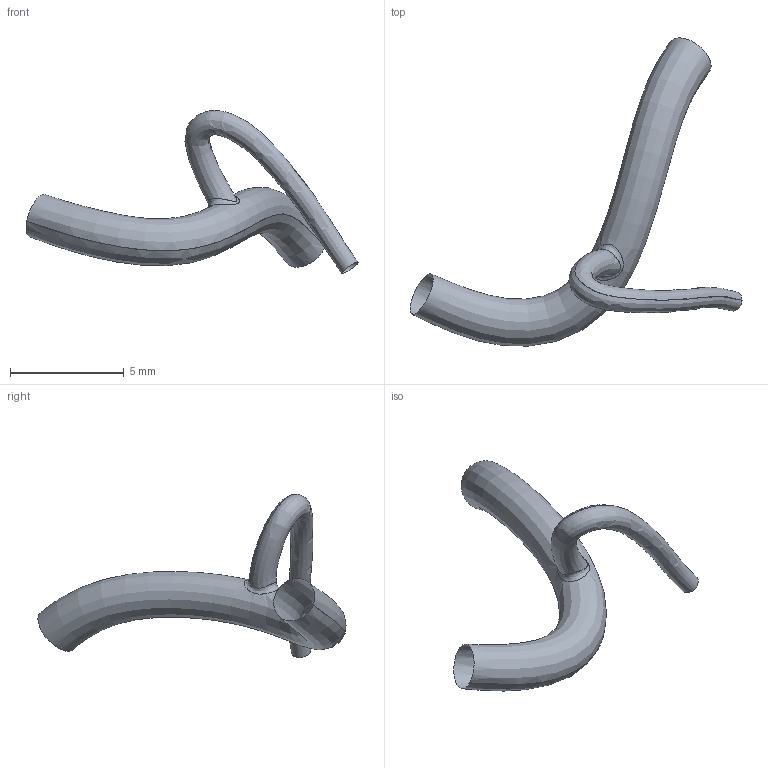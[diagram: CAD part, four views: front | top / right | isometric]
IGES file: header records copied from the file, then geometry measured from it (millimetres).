
Global section: file name: C:\Documents and Settings\Administrator\Desktop\FDA-Pig\Domestic RCA\Pig_000005\avc.es.igs; native system: Rhinoceros ( May 19 2006 ); preprocessor: Trout Lake IGES 012 May 19 2006; date: 111205.185148; units: centimetre
Bounding box: 14.58 x 13.53 x 7.16 mm (x, y, z)
Surface area: 171.1 mm2 (no closed solid volume)
Topology: 0 solids, 0 shells, 3 faces, 44 edges, 41 vertices
Faces by surface type: bspline 3
